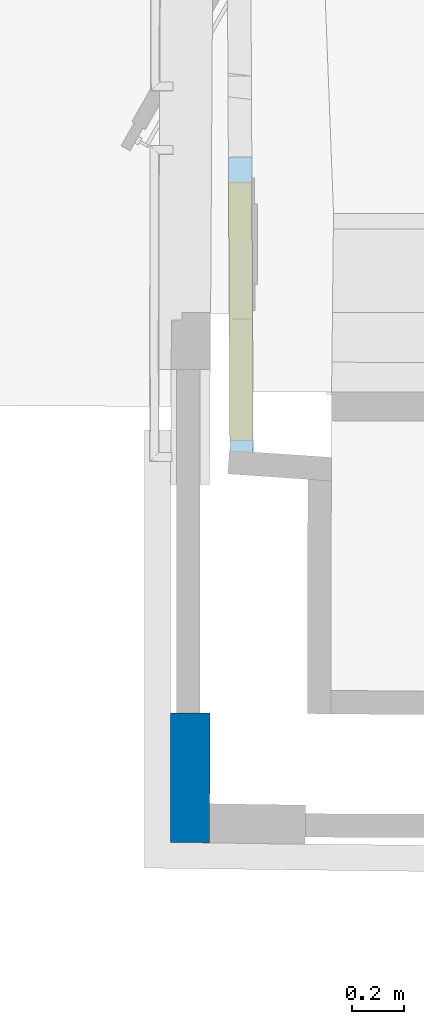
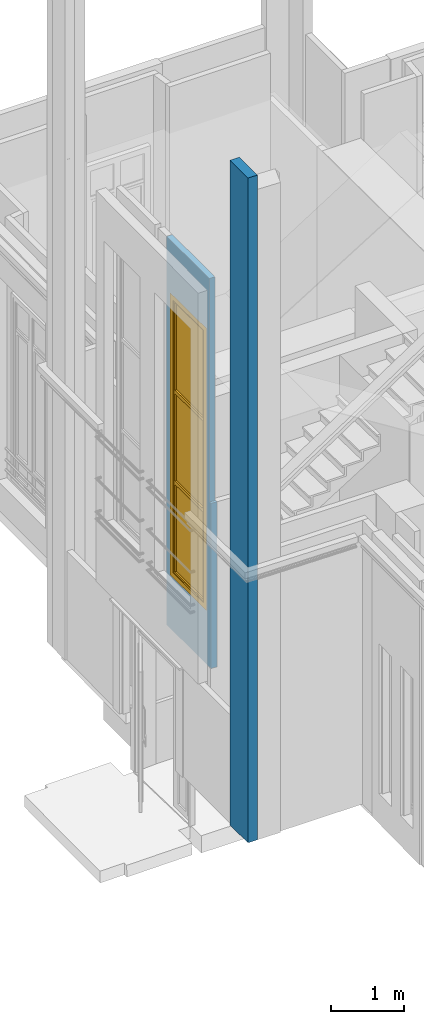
# One storey, part 46 of 97: 1 wall, 1 window, 1 opening, plus 1 element that does not belong to this part.
"""IFC2X3 building model written with IfcOpenShell, lengths in centimetres."""

from ifc_helpers import new_model, entity, si_unit, converted_unit, direction, frame, origin, origin_with_axes, place, context, subcontext, project, spatial, polyline, outline, extrude, clip, bounded_halfspace, faceted_brep, shape, source, transform, mapped, material, material_list, layer, layer_set, layer_usage, type_object, element, fill, save


model = new_model("IFC2X3")

# Units and contexts
model_context = context("Model", 3, precision=0.0001, world=origin(), true_north=direction((0.225632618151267, 0.974212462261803, 0.0)))
body_context = subcontext(model_context, "Body", "Model", "MODEL_VIEW")
footprint_context = subcontext(model_context, "FootPrint", "Model", "MODEL_VIEW")
profile_context = subcontext(model_context, "Profile", "Model", "MODEL_VIEW")
ifc_project = project(units=[si_unit("LENGTHUNIT", "METRE", prefix="CENTI"), si_unit("AREAUNIT", "SQUARE_METRE", prefix="CENTI"), si_unit("VOLUMEUNIT", "CUBIC_METRE", prefix="CENTI"), converted_unit("PLANEANGLEUNIT", "DEGREE", entity("IfcRatioMeasure", 0.0174532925), si_unit("PLANEANGLEUNIT", "RADIAN"), dimensions=[0, 0, 0, 0, 0, 0, 0])], contexts=[model_context])

# Site, building, storey
site_placement = place(None, origin_with_axes())
site = spatial("IfcSite", under=ifc_project, at=site_placement, Name="Default Site", CompositionType="ELEMENT")
building_placement = place(site_placement, origin_with_axes())
building = spatial("IfcBuilding", under=site, at=building_placement, Name="Default Building", CompositionType="ELEMENT")
storey_placement = place(building_placement, origin_with_axes())
storey = spatial("IfcBuildingStorey", under=building, at=storey_placement, Name="Rez-de-chaussée", CompositionType="ELEMENT", Elevation=0.0)

# Wall
ifc_material_1 = material(Name="<aucun>")
ifc_layer_1 = layer(ifc_material_1, 15.0)
ifc_layer_set_1 = layer_set([ifc_layer_1], Name="default")
ifc_layer_usage_1 = layer_usage(ifc_layer_set_1, "AXIS2", "POSITIVE", -7.5)
wall_type_1 = type_object("IfcWallType", Name="default 150", PredefinedType="NOTDEFINED", material=ifc_layer_set_1)
wall_1_placement = place(storey_placement, frame((-1354.3958869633, -342.848081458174, 0.0128503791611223), z_axis=(0.0, 0.0, 1.0), x_axis=(0.000888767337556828, 0.999999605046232, 0.0)))
element("IfcWall", 1, at=wall_1_placement, inside=storey, type_object=wall_type_1, material=ifc_layer_usage_1, Name="Enveloppe 374872", context=body_context, shape_type="Brep", body=[
    faceted_brep([(49.5653876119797, 7.49995566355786, -4.62918597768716e-10), (0.00136408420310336, 7.49995566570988, -4.62918597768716e-10), (0.00136408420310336, 7.49995566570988, 1118.9591650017), (49.5653876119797, 7.49995566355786, 1118.9591650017), (49.6575127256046, 5.21961061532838, 182.782507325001), (49.565387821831, 5.21953010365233, 182.782507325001), (49.565387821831, 5.21953010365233, 841.897511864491), (49.6575127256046, 5.21961061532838, 841.897511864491), (49.6575127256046, 5.21961061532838, 568.897509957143), (49.6653694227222, 4.10543945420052, 853.897500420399), (49.5653765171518, 4.10547465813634, 853.897500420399), (49.5653765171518, 4.10547465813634, 1118.9591650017), (49.6653694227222, 4.10543945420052, 1118.9591650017), (49.6653694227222, 4.10543945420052, 1022.89755382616), (14.7921948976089, -7.50001834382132, 1108.83400478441), (2.02563788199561, -7.50001834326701, 1096.94273510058), (2.02563788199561, -7.50001834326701, -4.62918597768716e-10), (14.7921948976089, -7.50001834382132, -4.62918597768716e-10), (49.5653676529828, -7.50001834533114, -4.62918597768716e-10), (49.5653676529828, -7.50001834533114, 1118.9591650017), (2.02563788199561, -7.50001834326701, 1118.9591650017), (2.02563788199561, -7.50001611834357, 1096.94273510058), (-0.209274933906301, -7.50001611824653, 1094.86105480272), (-0.209274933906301, -7.50001611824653, -4.62918597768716e-10), (2.02563788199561, -7.50001611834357, -4.62918597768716e-10), (2.02563788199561, -7.50001611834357, 1118.9591650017), (-0.209274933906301, -7.50001611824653, 1118.9591650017), (49.565375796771, -3.78039471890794, 182.782507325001), (49.6653685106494, -3.78030733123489, 182.782507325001), (49.6653685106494, -3.78030733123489, 568.897509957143), (49.6653685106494, -3.78030733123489, 841.897511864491), (49.565375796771, -3.78039471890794, 841.897511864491), (49.5653884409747, -4.89447748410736, 853.897500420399), (49.6622102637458, -4.89451157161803, 853.897500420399), (49.6622102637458, -4.89451157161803, 1022.89755382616), (49.6622102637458, -4.89451157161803, 1118.9591650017), (49.5653884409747, -4.89447748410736, 1118.9591650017), (-0.0312843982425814, 5.17621175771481, -4.62918597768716e-10), (0.00136408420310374, 7.4999645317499, -4.62918597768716e-10), (49.5653878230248, 5.21952873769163, -4.62918597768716e-10), (2.03725821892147, 5.17805021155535, -4.62918597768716e-10), (2.03725821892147, 5.17805021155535, 1118.9591650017), (49.5653878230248, 5.21952873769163, 1118.9591650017), (0.00136408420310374, 7.4999645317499, 1118.9591650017), (-0.0312843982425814, 5.17621175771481, 1118.9591650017), (49.5653878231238, 7.49995566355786, -4.62918597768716e-10), (49.5653878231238, 7.49995566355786, 1118.9591650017), (49.5653878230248, 5.21952873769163, 841.897511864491), (49.5653878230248, 5.21952873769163, 182.782507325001), (49.5653765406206, 4.10554131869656, -4.62918597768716e-10), (49.565375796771, -3.78039471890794, -4.62918597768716e-10), (49.5653884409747, -4.89447748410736, -4.62918597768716e-10), (49.5653676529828, -7.50001213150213, -4.62918597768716e-10), (14.7921948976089, -7.50001834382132, 1118.9591650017), (49.5653676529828, -7.50001213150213, 1118.9591650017), (49.565375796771, -3.78039471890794, 1118.9591650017), (49.5653765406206, 4.10554131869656, 1118.9591650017), (49.5653676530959, -4.89447748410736, -4.62918597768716e-10), (49.5653676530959, -4.89447748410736, 853.897500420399), (49.5653676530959, -4.89447748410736, 1118.9591650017), (49.565375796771, -3.78039471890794, 853.897500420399), (49.5653757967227, -4.89447748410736, 853.897500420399), (49.5653757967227, -4.89447748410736, -4.62918597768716e-10), (49.5653765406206, 4.10554131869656, 182.782507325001), (49.5653765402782, -3.78039471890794, 182.782507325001), (49.5653765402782, -3.78039471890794, -4.62918597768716e-10), (49.5653765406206, 4.10554131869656, 853.897500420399), (49.5653765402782, -3.78039471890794, 853.897500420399), (49.5653765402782, -3.78039471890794, 841.897511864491), (49.5653765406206, 4.10554131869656, 841.897511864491), (49.5653878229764, 4.10554131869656, 182.782507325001), (49.5653878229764, 4.10554131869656, -4.62918597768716e-10), (49.5653878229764, 4.10554131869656, 1118.9591650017), (49.5653878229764, 4.10554131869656, 853.897500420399), (49.5653878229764, 4.10554131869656, 841.897511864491), (-0.2092749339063, -7.49999971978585, -4.62918597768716e-10), (-0.2092749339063, -7.49999971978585, 1118.9591650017), (49.6653685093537, -3.78030584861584, 182.782507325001), (49.6653694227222, 4.10543945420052, 182.782507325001), (49.663789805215, -0.394475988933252, 182.782507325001), (49.6634035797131, -1.51580703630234, 182.782507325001), (49.6634035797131, -1.51580703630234, 841.897511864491), (49.663789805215, -0.394475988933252, 841.897511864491), (49.6653694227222, 4.10543945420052, 841.897511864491), (49.6653685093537, -3.78030584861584, 841.897511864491), (49.663789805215, -0.394475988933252, 568.897509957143), (49.6633950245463, -1.51580703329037, 568.897509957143), (49.6633950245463, -1.51580703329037, 182.782507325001), (49.6634035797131, -1.51580703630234, 568.897509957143), (49.6653826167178, -3.78030583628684, 568.897509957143), (49.6653826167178, -3.78030583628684, 182.782507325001), (49.6653694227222, 4.10543945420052, 568.897509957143), (49.6637851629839, -0.394475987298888, 568.897509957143), (49.6637851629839, -0.394475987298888, 182.782507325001), (49.6633950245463, -1.51580703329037, 841.897511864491), (49.6637851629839, -0.394475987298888, 841.897511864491), (49.6653826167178, -3.78030583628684, 841.897511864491), (49.6653782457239, 4.10543951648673, 841.897511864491), (49.6653782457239, 4.10543951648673, 568.897509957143), (49.6653782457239, 4.10543951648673, 182.782507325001), (49.6653685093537, -3.78030584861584, 853.897500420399), (49.6634035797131, -1.51580703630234, 853.897500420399), (49.6634035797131, -1.51580703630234, 1118.9591650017), (49.6653685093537, -3.78030584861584, 1118.9591650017), (49.6633903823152, -1.51580703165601, 1022.89755382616), (49.6633903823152, -1.51580703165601, 853.897500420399), (49.6634035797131, -1.51580703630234, 1022.89755382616), (49.6653826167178, -3.78030583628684, 1022.89755382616), (49.6653826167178, -3.78030583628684, 853.897500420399), (49.6633903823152, -1.51580703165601, 1118.9591650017), (49.6653826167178, -3.78030583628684, 1118.9591650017), (49.6622102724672, -4.89448679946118, 853.897500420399), (49.6622102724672, -4.89448679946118, 1118.9591650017), (49.6653685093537, -3.78030584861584, 1022.89755382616), (49.6621999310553, -4.89448677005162, 1022.89755382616), (49.6621999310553, -4.89448677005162, 853.897500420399), (49.6621999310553, -4.89448677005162, 1118.9591650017), (-0.0312665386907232, 5.17621150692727, -4.62918597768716e-10), (-0.0312665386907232, 5.17621150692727, 1118.9591650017), (-0.209286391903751, -7.49999955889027, -4.62918597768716e-10), (-0.209286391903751, -7.49999955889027, 1094.86105480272), (-0.209286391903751, -7.49999955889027, 1118.9591650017)], [[[0, 1, 2, 3]], [[4, 5, 6, 7, 8]], [[9, 10, 11, 12, 13]], [[14, 15, 16, 17]], [[17, 18, 19, 20, 15, 14]], [[21, 22, 23, 24]], [[25, 26, 22, 21]], [[27, 28, 29, 30, 31]], [[32, 33, 34, 35, 36]], [[37, 38, 0, 39, 40]], [[41, 42, 3, 43, 44]], [[39, 45, 46, 42, 47, 48]], [[39, 49, 50, 51, 52, 17, 24, 40]], [[41, 25, 53, 54, 36, 55, 56, 42]], [[52, 57, 58, 59, 54]], [[60, 61, 62, 50, 27, 31]], [[63, 64, 65, 49]], [[66, 67, 68, 69]], [[48, 70, 71, 39]], [[42, 72, 73, 74, 47]], [[37, 40, 24, 75]], [[76, 25, 41, 44]], [[77, 27, 63, 78, 79, 80]], [[81, 82, 83, 69, 31, 84]], [[85, 86, 87, 79]], [[88, 89, 90, 80]], [[91, 92, 93, 78]], [[82, 94, 86, 85]], [[83, 95, 92, 91]], [[81, 96, 89, 88]], [[4, 78, 63, 48]], [[47, 69, 83, 7]], [[7, 97, 98, 8]], [[8, 98, 99, 4]], [[100, 60, 66, 9, 101]], [[102, 12, 56, 55, 103]], [[13, 104, 105, 9]], [[106, 107, 108, 101]], [[12, 109, 104, 13]], [[102, 110, 107, 106]], [[32, 60, 100, 111]], [[112, 103, 55, 36]], [[113, 114, 115, 100]], [[103, 116, 114, 113]], [[38, 117, 118, 43]], [[37, 119, 120, 121, 44]]]),
])

# Wall, opening, window
ifc_layer_2 = layer(ifc_material_1, 9.0)
ifc_layer_set_2 = layer_set([ifc_layer_2], Name="default")
ifc_layer_usage_2 = layer_usage(ifc_layer_set_2, "AXIS2", "POSITIVE", -4.5)
wall_type_2 = type_object("IfcWallType", Name="default 90", PredefinedType="NOTDEFINED", material=ifc_layer_set_2)
wall_2_placement = place(storey_placement, frame((-1334.68678230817, -192.722181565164, 200.0), z_axis=(0.0, 0.0, 1.0), x_axis=(-0.00503871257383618, 0.999987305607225, 0.0)))
wall_2 = element("IfcWallStandardCase", 2, at=wall_2_placement, inside=storey, type_object=wall_type_2, material=ifc_layer_usage_2, Name="Enveloppe 603926", context=body_context, shape_type="Clipping", body=[
    clip(clip(extrude(outline(polyline([(112.431436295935, 4.49999999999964), (-8.99033163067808, 4.49999999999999), (-9.64405295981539, -4.50000000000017), (112.431436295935, -4.50000000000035), (112.431436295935, 4.49999999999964)])), origin_with_axes(), (0.0, 0.0, 1.0), 653.910374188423), bounded_halfspace(frame((-5.59764722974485, -4.49999999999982, 277.808208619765), z_axis=(0.0, 0.0, -1.0), x_axis=(0.100311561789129, 0.994956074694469, 0.0)), True, frame((-5.59764722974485, -4.49999999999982, 277.808208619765), z_axis=(0.0, 0.0, 1.0), x_axis=(1.0, 0.0, 0.0)), polyline([(-4.04640573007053, 0.0), (0.0, 1.77635683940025e-13), (0.907380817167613, 8.99999999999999), (-3.39268440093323, 9.00000000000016), (-4.04640573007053, 0.0)]))), bounded_halfspace(frame((-5.50662644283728, -3.5971959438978, 277.808208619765), z_axis=(0.0, 0.0, -1.0), x_axis=(-0.100311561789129, -0.994956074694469, 0.0)), True, frame((-5.50662644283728, -3.5971959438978, 277.808208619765), z_axis=(0.0, 0.0, 1.0), x_axis=(1.0, 0.0, 0.0)), polyline([(-0.0910207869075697, -0.902804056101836), (8.95460467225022, -0.902804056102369), (0.0, 1.77635683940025e-13), (-0.0910207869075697, -0.902804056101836)]))),
])
opening_placement = place(wall_2_placement, frame((3.87075384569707, -2.27373675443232e-13, 90.0000000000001), z_axis=(0.0, 0.0, 1.0), x_axis=(-1.0, 1.97758476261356e-16, 0.0)))
cartesian_point_1 = entity("IfcCartesianPoint", [-4.44089209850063e-14, 0.0, 475.0])
cartesian_point_2 = entity("IfcCartesianPoint", [-99.0415985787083, -4.49999999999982])
opening = element("IfcOpeningElement", 3, at=opening_placement, cuts=wall_2, Name="4294966496_11", ObjectType="Opening", shapes=[
    shape(body_context, "Body", "SweptSolid", [extrude(outline(polyline([(4.44089209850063e-14, 475.0), (0.0, 4.44089209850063e-14), (99.0415985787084, 4.44089209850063e-14), (99.0415985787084, 475.0), (4.44089209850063e-14, 475.0)])), frame((0.0, -14.5, 0.0), z_axis=(0.0, 1.0, 0.0), x_axis=(-1.0, 0.0, 0.0)), (0.0, 0.0, 1.0), 29.0000000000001)]),
    shape(profile_context, "Profile", "GeometricCurveSet", [entity("IfcGeometricCurveSet", [entity("IfcPolyline", [cartesian_point_1, entity("IfcCartesianPoint", [0.0, 0.0, 4.44089209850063e-14]), entity("IfcCartesianPoint", [-99.0415985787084, 0.0, 4.44089209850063e-14]), entity("IfcCartesianPoint", [-99.0415985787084, 0.0, 475.0]), cartesian_point_1])])]),
    shape(footprint_context, "FootPrint", "GeometricCurveSet", [entity("IfcGeometricCurveSet", [entity("IfcPolyline", [cartesian_point_2, entity("IfcCartesianPoint", [2.22044604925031e-14, -4.49999999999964]), entity("IfcCartesianPoint", [6.66133814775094e-14, 4.50000000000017]), entity("IfcCartesianPoint", [-99.0415985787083, 4.50000000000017]), cartesian_point_2])])]),
])
ifc_material_2 = material(Name="Transparent")
ifc_material_3 = material(Name="Blanc trafic")
ifc_material_list = material_list([ifc_material_2, ifc_material_3])
window_style = type_object("IfcWindowStyle", Name="Fn 1 montant fixe 2 vitres ép 90", ConstructionType="NOTDEFINED", OperationType="TRIPLE_PANEL_HORIZONTAL", ParameterTakesPrecedence=True, Sizeable=False, material=ifc_material_list)
shared_shape = source(origin_with_axes(), body_context, "Body", "Brep", [
    faceted_brep([(-41.5207982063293, 467.000007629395, -4.50000017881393), (-41.5207982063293, 467.000007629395, 4.50000017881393), (-41.5207982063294, 7.99999982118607, 4.50000017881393), (-41.5207982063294, 7.99999982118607, -4.50000017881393), (-49.5207995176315, 475.0, 4.50000017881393), (-49.5207995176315, 2.22044604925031e-14, 4.50000017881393), (-41.5207982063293, 7.99999982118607, 4.50000017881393), (-49.5207995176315, 475.0, -4.50000017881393), (-49.5207995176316, 2.22044604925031e-14, -4.50000017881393), (-49.5207995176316, 2.22044604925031e-14, 4.50000017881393), (-41.5207982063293, 7.99999982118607, -4.50000017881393), (-49.5207995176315, 2.22044604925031e-14, -4.50000017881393), (41.5207982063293, 7.99999982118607, 4.50000017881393), (41.5207982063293, 7.99999982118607, -4.50000017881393), (49.5207995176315, 2.22044604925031e-14, 4.50000017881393), (49.5207995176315, 2.22044604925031e-14, -4.50000017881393), (41.5207982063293, 467.000007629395, 4.50000017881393), (41.5207982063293, 467.000007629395, -4.50000017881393), (49.5207995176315, 475.0, 4.50000017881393), (49.5207995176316, 475.0, -4.50000017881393), (49.5207995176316, 475.0, 4.50000017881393), (49.5207995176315, 475.0, -4.50000017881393)], [[[0, 1, 2, 3]], [[1, 4, 5, 6]], [[4, 7, 8, 9]], [[7, 0, 10, 11]], [[10, 6, 12, 13]], [[6, 5, 14, 12]], [[5, 11, 15, 14]], [[11, 10, 13, 15]], [[13, 12, 16, 17]], [[12, 14, 18, 16]], [[14, 15, 19, 20]], [[15, 13, 17, 21]], [[17, 16, 1, 0]], [[16, 18, 4, 1]], [[18, 21, 7, 4]], [[21, 17, 0, 7]]]),
    faceted_brep([(-38.5207980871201, 463.99998664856, -2.99999993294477), (-38.5207980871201, 463.99998664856, 2.99999993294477), (-38.5207980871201, 317.000007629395, 2.99999993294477), (-38.5207980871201, 317.000007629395, -2.99999993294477), (-41.5207982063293, 467.000007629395, 2.99999993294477), (-41.5207982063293, 314.000010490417, 2.99999993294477), (-41.5207982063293, 467.000007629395, -2.99999993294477), (-41.5207982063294, 314.000010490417, -2.99999993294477), (-41.5207982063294, 314.000010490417, 2.99999993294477), (-41.5207982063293, 314.000010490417, -2.99999993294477), (38.5207980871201, 317.000007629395, 2.99999993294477), (38.5207980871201, 317.000007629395, -2.99999993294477), (41.5207982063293, 314.000010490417, 2.99999993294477), (41.5207982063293, 314.000010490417, -2.99999993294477), (38.5207980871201, 463.99998664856, 2.99999993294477), (38.5207980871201, 463.99998664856, -2.99999993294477), (41.5207982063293, 467.000007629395, 2.99999993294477), (41.5207982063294, 467.000007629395, -2.99999993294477), (41.5207982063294, 467.000007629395, 2.99999993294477), (41.5207982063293, 467.000007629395, -2.99999993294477)], [[[0, 1, 2, 3]], [[1, 4, 5, 2]], [[4, 6, 7, 8]], [[6, 0, 3, 9]], [[3, 2, 10, 11]], [[2, 5, 12, 10]], [[5, 9, 13, 12]], [[9, 3, 11, 13]], [[11, 10, 14, 15]], [[10, 12, 16, 14]], [[12, 13, 17, 18]], [[13, 11, 15, 19]], [[15, 14, 1, 0]], [[14, 16, 4, 1]], [[16, 19, 6, 4]], [[19, 15, 0, 6]]]),
    faceted_brep([(38.5207980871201, 463.99998664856, -0.499999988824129), (38.5207980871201, 317.000007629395, -0.499999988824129), (-38.5207980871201, 317.000007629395, -0.499999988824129), (-38.5207980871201, 463.99998664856, -0.499999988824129), (-38.5207980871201, 463.99998664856, 0.499999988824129), (-38.5207980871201, 317.000007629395, 0.499999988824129), (38.5207980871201, 317.000007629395, 0.499999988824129), (38.5207980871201, 463.99998664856, 0.499999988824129)], [[[0, 1, 2, 3]], [[4, 5, 6, 7]], [[3, 2, 5, 4]], [[2, 1, 6, 5]], [[1, 0, 7, 6]], [[0, 3, 4, 7]]]),
    faceted_brep([(-38.5207980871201, 310.999989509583, -2.99999993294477), (-38.5207980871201, 310.999989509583, 2.99999993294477), (-38.5207980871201, 163.999998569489, 2.99999993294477), (-38.5207980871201, 163.999998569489, -2.99999993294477), (-41.5207982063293, 314.000010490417, 2.99999993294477), (-41.5207982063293, 161.000001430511, 2.99999993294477), (-41.5207982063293, 314.000010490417, -2.99999993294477), (-41.5207982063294, 161.000001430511, -2.99999993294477), (-41.5207982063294, 161.000001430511, 2.99999993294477), (-41.5207982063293, 161.000001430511, -2.99999993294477), (38.5207980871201, 163.999998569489, 2.99999993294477), (38.5207980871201, 163.999998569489, -2.99999993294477), (41.5207982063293, 161.000001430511, 2.99999993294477), (41.5207982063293, 161.000001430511, -2.99999993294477), (38.5207980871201, 310.999989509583, 2.99999993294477), (38.5207980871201, 310.999989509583, -2.99999993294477), (41.5207982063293, 314.000010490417, 2.99999993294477), (41.5207982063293, 314.000010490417, -2.99999993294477)], [[[0, 1, 2, 3]], [[1, 4, 5, 2]], [[4, 6, 7, 8]], [[6, 0, 3, 9]], [[3, 2, 10, 11]], [[2, 5, 12, 10]], [[5, 9, 13, 12]], [[9, 3, 11, 13]], [[11, 10, 14, 15]], [[10, 12, 16, 14]], [[12, 13, 17, 16]], [[13, 11, 15, 17]], [[15, 14, 1, 0]], [[14, 16, 4, 1]], [[16, 17, 6, 4]], [[17, 15, 0, 6]]]),
    faceted_brep([(38.5207980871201, 310.999989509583, -0.499999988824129), (38.5207980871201, 163.999998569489, -0.499999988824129), (-38.5207980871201, 163.999998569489, -0.499999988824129), (-38.5207980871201, 310.999989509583, -0.499999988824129), (-38.5207980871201, 310.999989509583, 0.499999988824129), (-38.5207980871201, 163.999998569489, 0.499999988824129), (38.5207980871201, 163.999998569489, 0.499999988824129), (38.5207980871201, 310.999989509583, 0.499999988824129)], [[[0, 1, 2, 3]], [[4, 5, 6, 7]], [[3, 2, 5, 4]], [[2, 1, 6, 5]], [[1, 0, 7, 6]], [[0, 3, 4, 7]]]),
    faceted_brep([(-38.5207980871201, 158.000004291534, -2.99999993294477), (-38.5207980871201, 158.000004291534, 2.99999993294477), (-38.5207980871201, 10.9999999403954, 2.99999993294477), (-38.5207980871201, 10.9999999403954, -2.99999993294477), (-41.5207982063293, 161.000001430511, 2.99999993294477), (-41.5207982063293, 7.99999982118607, 2.99999993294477), (-41.5207982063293, 161.000001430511, -2.99999993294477), (-41.5207982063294, 7.99999982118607, -2.99999993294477), (-41.5207982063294, 7.99999982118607, 2.99999993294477), (-41.5207982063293, 7.99999982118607, -2.99999993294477), (38.5207980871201, 10.9999999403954, 2.99999993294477), (38.5207980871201, 10.9999999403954, -2.99999993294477), (41.5207982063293, 7.99999982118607, 2.99999993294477), (41.5207982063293, 7.99999982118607, -2.99999993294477), (38.5207980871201, 158.000004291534, 2.99999993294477), (38.5207980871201, 158.000004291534, -2.99999993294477), (41.5207982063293, 161.000001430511, 2.99999993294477), (41.5207982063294, 161.000001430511, -2.99999993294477), (41.5207982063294, 161.000001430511, 2.99999993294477), (41.5207982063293, 161.000001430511, -2.99999993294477)], [[[0, 1, 2, 3]], [[1, 4, 5, 2]], [[4, 6, 7, 8]], [[6, 0, 3, 9]], [[3, 2, 10, 11]], [[2, 5, 12, 10]], [[5, 9, 13, 12]], [[9, 3, 11, 13]], [[11, 10, 14, 15]], [[10, 12, 16, 14]], [[12, 13, 17, 18]], [[13, 11, 15, 19]], [[15, 14, 1, 0]], [[14, 16, 4, 1]], [[16, 19, 6, 4]], [[19, 15, 0, 6]]]),
    faceted_brep([(38.5207980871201, 158.000004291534, -0.499999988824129), (38.5207980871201, 10.9999999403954, -0.499999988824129), (-38.5207980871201, 10.9999999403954, -0.499999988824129), (-38.5207980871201, 158.000004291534, -0.499999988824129), (-38.5207980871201, 158.000004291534, 0.499999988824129), (-38.5207980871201, 10.9999999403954, 0.499999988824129), (38.5207980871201, 10.9999999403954, 0.499999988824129), (38.5207980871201, 158.000004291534, 0.499999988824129)], [[[0, 1, 2, 3]], [[4, 5, 6, 7]], [[3, 2, 5, 4]], [[2, 1, 6, 5]], [[1, 0, 7, 6]], [[0, 3, 4, 7]]]),
])
window_placement = place(opening_placement, frame((-99.0415985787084, -4.50000000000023, 5.6843418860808e-14), z_axis=(0.0, 0.0, 1.0), x_axis=(1.0, 0.0, 0.0)))
window = element("IfcWindow", 4, at=window_placement, inside=storey, type_object=window_style, material=ifc_material_list, Name="Fenêtre 766479", OverallHeight=475.0, OverallWidth=99.0415985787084, context=body_context, shape_type="MappedRepresentation", body=[
    mapped(shared_shape, transform((49.5207992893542, 4.50000000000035, -4.44089209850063e-14), x_axis=(-1.0, 0.0, 0.0), y_axis=(0.0, 0.0, 1.0), z_axis=(0.0, 1.0, 0.0), scale=1.0, scale2=1.0, scale3=1.0, uniform=False)),
])
fill(opening, window)

save(model, "model.ifc")
